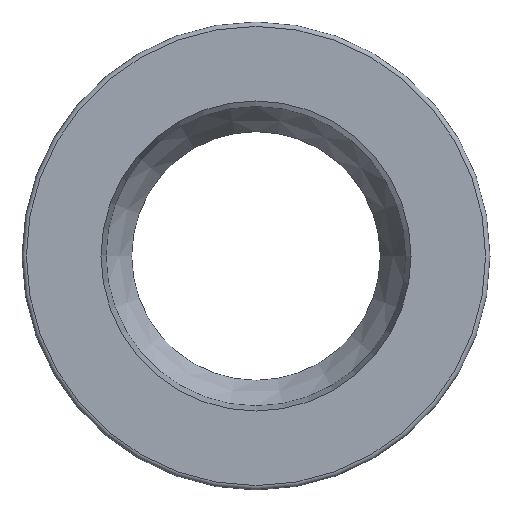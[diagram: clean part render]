
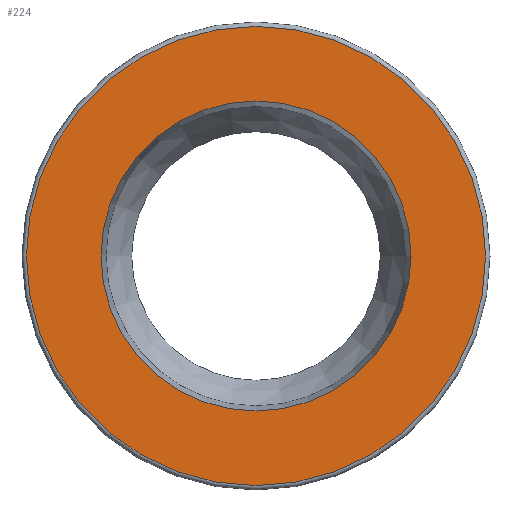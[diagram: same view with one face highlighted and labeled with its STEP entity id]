
A CAD part, left-side view. The second image highlights one B-rep face of the part: STEP entity #224.
In plain terms, the highlighted planar face has unit normal (-1, 0, 0).
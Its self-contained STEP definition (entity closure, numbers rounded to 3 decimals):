
#20=FACE_BOUND('',#66,.T.);
#24=PLANE('',#274);
#49=FACE_OUTER_BOUND('',#65,.T.);
#65=EDGE_LOOP('',(#176));
#66=EDGE_LOOP('',(#177));
#87=CIRCLE('',#270,15.7);
#90=CIRCLE('',#275,10.6);
#109=VERTEX_POINT('',#404);
#112=VERTEX_POINT('',#414);
#132=EDGE_CURVE('',#109,#109,#87,.T.);
#136=EDGE_CURVE('',#112,#112,#90,.T.);
#176=ORIENTED_EDGE('',*,*,#132,.F.);
#177=ORIENTED_EDGE('',*,*,#136,.T.);
#224=ADVANCED_FACE('',(#49,#20),#24,.T.);
#270=AXIS2_PLACEMENT_3D('',#406,#325,#326);
#274=AXIS2_PLACEMENT_3D('',#413,#334,#335);
#275=AXIS2_PLACEMENT_3D('',#415,#336,#337);
#325=DIRECTION('center_axis',(1.,0.,0.));
#326=DIRECTION('ref_axis',(0.,-1.,0.));
#334=DIRECTION('center_axis',(-1.,0.,0.));
#335=DIRECTION('ref_axis',(0.,0.,1.));
#336=DIRECTION('center_axis',(1.,0.,0.));
#337=DIRECTION('ref_axis',(0.,1.,0.));
#404=CARTESIAN_POINT('',(0.,0.,15.7));
#406=CARTESIAN_POINT('Origin',(0.,0.,
0.));
#413=CARTESIAN_POINT('Origin',(0.,13.3,0.));
#414=CARTESIAN_POINT('',(0.,-10.6,0.));
#415=CARTESIAN_POINT('Origin',(0.,0.,
0.));
